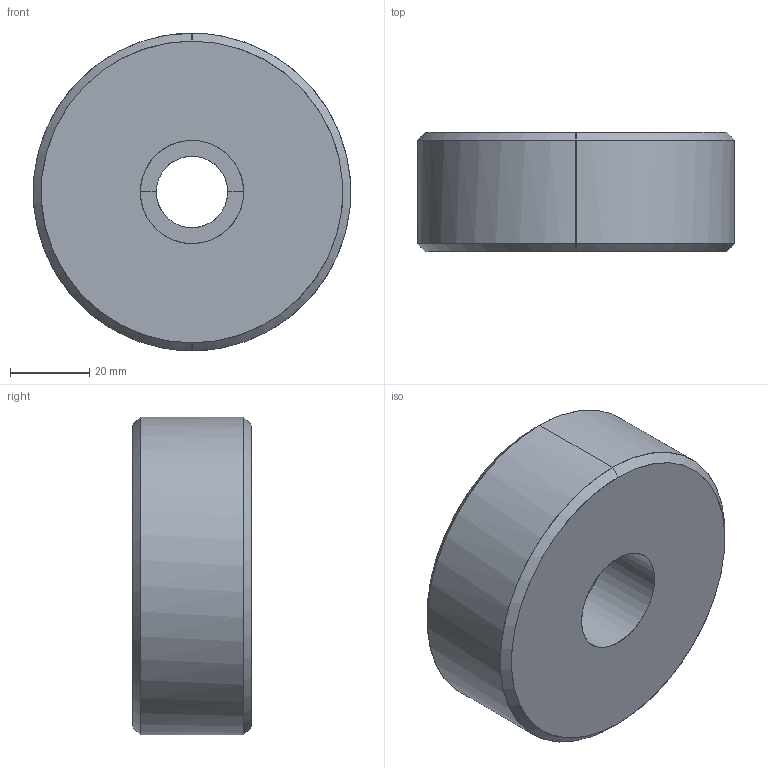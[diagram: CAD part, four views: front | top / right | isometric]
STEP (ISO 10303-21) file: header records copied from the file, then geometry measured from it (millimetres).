
FILE_DESCRIPTION(('CATIA V5 STEP Exchange'),'2;1');
FILE_NAME('C:\Users\Utente\Desktop\758+80+30+12.stp','2021-02-26T12:17:24+00:00',('none'),('none'),'CATIA Version 5 Release 20 GA (IN-10)','CATIA V5 STEP AP203','none');
FILE_SCHEMA(('CONFIG_CONTROL_DESIGN'));
Length unit declared in the file: millimetre
Products named in the file (1): 758+80+30+12
Bounding box: 79.84 x 30 x 80 mm (x, y, z)
Surface area: 18633.4 mm2 (no closed solid volume)
Topology: 0 solids, 11 shells, 14 faces, 59 edges, 53 vertices
Faces by surface type: bspline 12, plane 2
Entity records: 1034 total; most frequent: CARTESIAN_POINT 663, ORIENTED_EDGE 65, B_SPLINE_CURVE_WITH_KNOTS 59, EDGE_CURVE 59, VERTEX_POINT 53, EDGE_LOOP 16, ADVANCED_FACE 14, FACE_OUTER_BOUND 14
